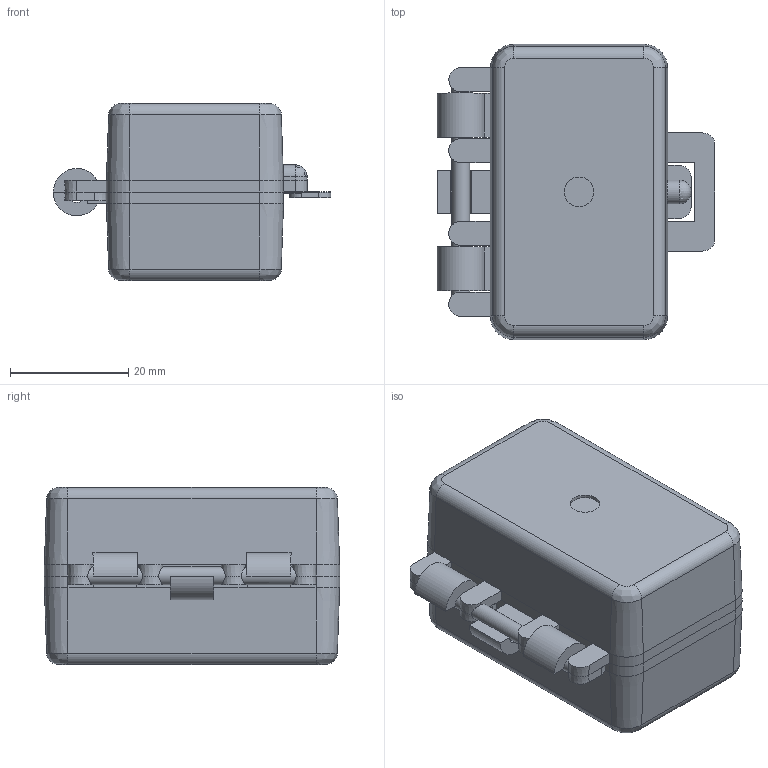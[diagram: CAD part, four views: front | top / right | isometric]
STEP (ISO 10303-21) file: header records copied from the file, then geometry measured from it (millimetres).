
FILE_DESCRIPTION(/* description */ (''),/* implementation_level */ '2;1');
FILE_NAME(/* name */ 'CP06.stp',/* time_stamp */ '2019-05-04T10:07:42+08:00',/* author */ (''),/* organization */ (''),/* preprocessor_version */ 'ST-DEVELOPER v16',/* originating_system */ 'SIEMENS PLM Software NX 10.0',/* authorisation */ '');
FILE_SCHEMA (('AUTOMOTIVE_DESIGN { 1 0 10303 214 3 1 1 1 }'));
Length unit declared in the file: millimetre
Products named in the file (3): CP06_id6_x_t; CP06_id10_x_t; CP06_x_t
Assembly tree (2 placements, depth 2):
  CP06_x_t
    CP06_id10_x_t
    CP06_id6_x_t
Bounding box: 47 x 50 x 30 mm (x, y, z)
Volume: 14408 mm3; surface area: 15275.6 mm2
Topology: 2 solids, 2 shells, 210 faces, 518 edges, 313 vertices
Faces by surface type: plane 110, cylinder 53, cone 28, bspline 17, sphere 2
Full cylindrical faces by diameter (mm): 3 x3, 4 x1, 5 x1
Entity records: 6502 total; most frequent: CARTESIAN_POINT 1508, DIRECTION 1057, ORIENTED_EDGE 1010, EDGE_CURVE 505, AXIS2_PLACEMENT_3D 368, LINE 321, VECTOR 321, VERTEX_POINT 310
